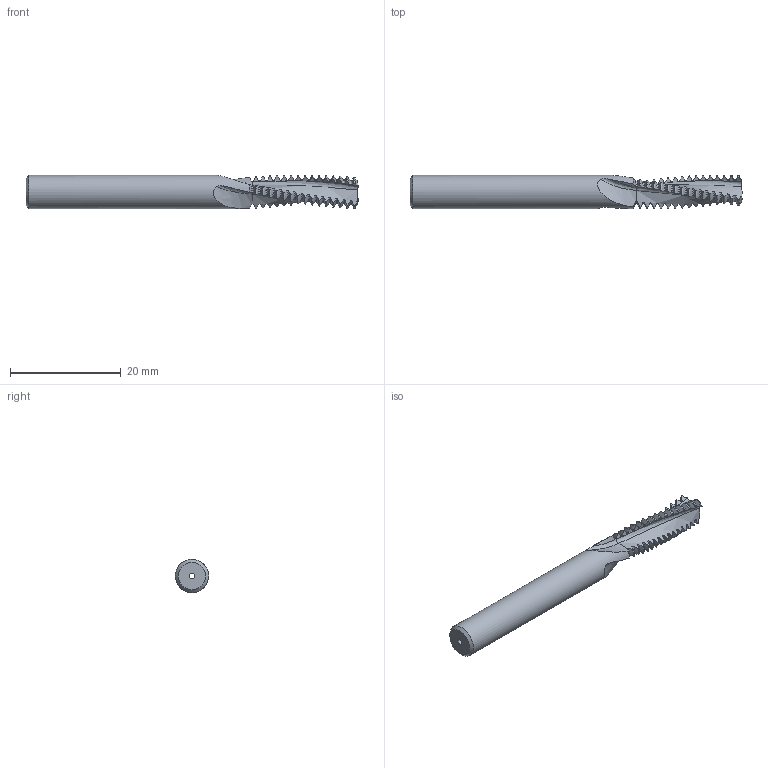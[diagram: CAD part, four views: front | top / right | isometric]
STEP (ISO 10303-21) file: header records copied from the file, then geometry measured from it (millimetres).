
FILE_DESCRIPTION(/* description */ (''),/* implementation_level */ '2;1');
FILE_NAME(/* name */ '00031630-STEP',/* time_stamp */ '2024-02-20T09:19:35+01:00',/* author */ (''),/* organization */ (''),/* preprocessor_version */ 'ST-DEVELOPER v16.5',/* originating_system */ 'HiCAD 2017 2201.0 Build 268',/* authorisation */ '');
FILE_SCHEMA (('AUTOMOTIVE_DESIGN { 1 0 10303 214 1 1 1 1 }'));
Length unit declared in the file: millimetre
Products named in the file (2): Root; ROTATIONSTEIL_0
Assembly tree (1 placements, depth 2):
  Root
    ROTATIONSTEIL_0
Bounding box: 60 x 6 x 6 mm (x, y, z)
Volume: 1236.6 mm3; surface area: 1356.6 mm2
Topology: 1 solids, 1 shells, 302 faces, 990 edges, 690 vertices
Faces by surface type: torus 138, cone 94, cylinder 50, bspline 18, plane 2
Full cylindrical faces by diameter (mm): 1 x1, 6 x1
Entity records: 33903 total; most frequent: CARTESIAN_POINT 17196, PRESENTATION_STYLE_ASSIGNMENT 1967, COLOUR_RGB 1967, DRAUGHTING_PRE_DEFINED_CURVE_FONT 1966, CURVE_STYLE 1966, OVER_RIDING_STYLED_ITEM 1966, ORIENTED_EDGE 1966, DIRECTION 1146
